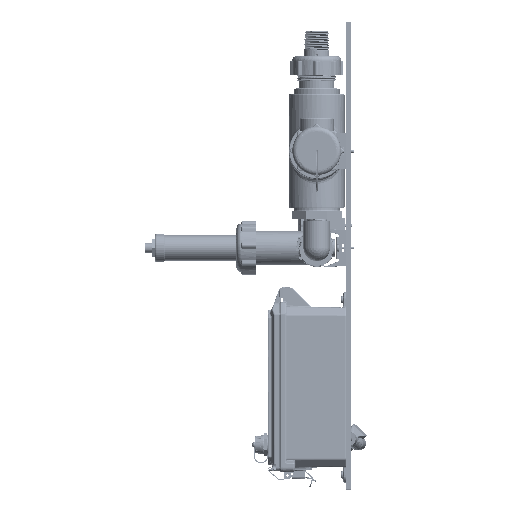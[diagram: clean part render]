
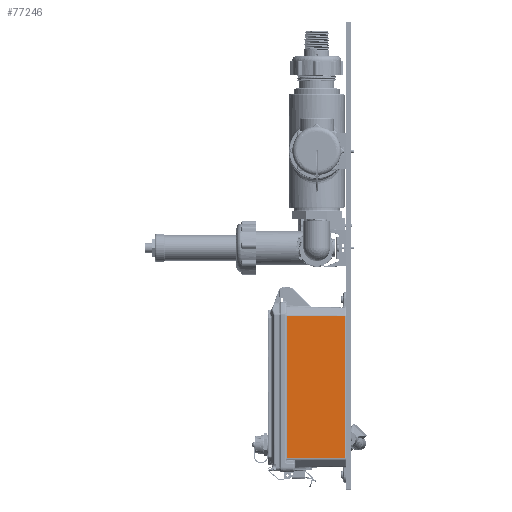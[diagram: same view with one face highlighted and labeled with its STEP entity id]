
A CAD part, top view. The second image highlights one B-rep face of the part: STEP entity #77246.
In plain terms, the highlighted planar face has unit normal (0.018, 0, 1) as drawn and (-0.017, 0, 1) by its records, which use the part's own axes.
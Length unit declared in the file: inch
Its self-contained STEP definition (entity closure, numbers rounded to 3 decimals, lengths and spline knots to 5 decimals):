
#583 = VECTOR ( 'NONE', #203816, 39.37008 ) ;
#23213 = CARTESIAN_POINT ( 'NONE',  ( -3.18613, 3.67756, 3.08939 ) ) ;
#36558 = EDGE_CURVE ( 'NONE', #87462, #350390, #545067, .T. ) ;
#56716 = VECTOR ( 'NONE', #149020, 39.37008 ) ;
#62610 = PLANE ( 'NONE',  #136569 ) ;
#77246 = ADVANCED_FACE ( 'NONE', ( #334848 ), #62610, .T. ) ;
#87462 = VERTEX_POINT ( 'NONE', #236082 ) ;
#108275 = LINE ( 'NONE', #23213, #583 ) ;
#108811 = DIRECTION ( 'NONE',  ( -0.017, 0., 1. ) ) ;
#121585 = ORIENTED_EDGE ( 'NONE', *, *, #364215, .F. ) ;
#129165 = CARTESIAN_POINT ( 'NONE',  ( -0.21878, -3.65683, 3.14118 ) ) ;
#136569 = AXIS2_PLACEMENT_3D ( 'NONE', #383766, #108811, #162896 ) ;
#139774 = EDGE_LOOP ( 'NONE', ( #414482, #223777, #474639, #121585 ) ) ;
#149020 = DIRECTION ( 'NONE',  ( 1., -0.007, 0.017 ) ) ;
#155236 = VERTEX_POINT ( 'NONE', #395392 ) ;
#162896 = DIRECTION ( 'NONE',  ( 1., 0., 0.017 ) ) ;
#189159 = CARTESIAN_POINT ( 'NONE',  ( -3.18613, -3.63538, 3.08939 ) ) ;
#194756 = CARTESIAN_POINT ( 'NONE',  ( -0.21878, 4.85633, 3.14118 ) ) ;
#203816 = DIRECTION ( 'NONE',  ( 0., 1., 0. ) ) ;
#223777 = ORIENTED_EDGE ( 'NONE', *, *, #533117, .T. ) ;
#236082 = CARTESIAN_POINT ( 'NONE',  ( -3.18613, -3.63538, 3.08939 ) ) ;
#274763 = CARTESIAN_POINT ( 'NONE',  ( 4.67159, 3.69219, 3.22654 ) ) ;
#295025 = DIRECTION ( 'NONE',  ( 0., 1., 0. ) ) ;
#305045 = EDGE_CURVE ( 'NONE', #357300, #155236, #577271, .T. ) ;
#317410 = LINE ( 'NONE', #194756, #353199 ) ;
#332547 = CARTESIAN_POINT ( 'NONE',  ( -3.18613, 3.63538, 3.08939 ) ) ;
#334848 = FACE_OUTER_BOUND ( 'NONE', #139774, .T. ) ;
#340008 = VECTOR ( 'NONE', #505565, 39.37008 ) ;
#350390 = VERTEX_POINT ( 'NONE', #129165 ) ;
#353199 = VECTOR ( 'NONE', #295025, 39.37008 ) ;
#357300 = VERTEX_POINT ( 'NONE', #332547 ) ;
#364215 = EDGE_CURVE ( 'NONE', #87462, #357300, #108275, .T. ) ;
#383766 = CARTESIAN_POINT ( 'NONE',  ( 0., 4.85633, 3.145 ) ) ;
#395392 = CARTESIAN_POINT ( 'NONE',  ( -0.21878, 3.65683, 3.14118 ) ) ;
#414482 = ORIENTED_EDGE ( 'NONE', *, *, #36558, .T. ) ;
#474639 = ORIENTED_EDGE ( 'NONE', *, *, #305045, .F. ) ;
#505565 = DIRECTION ( 'NONE',  ( 1., 0.007, 0.017 ) ) ;
#533117 = EDGE_CURVE ( 'NONE', #350390, #155236, #317410, .T. ) ;
#545067 = LINE ( 'NONE', #189159, #56716 ) ;
#577271 = LINE ( 'NONE', #274763, #340008 ) ;
